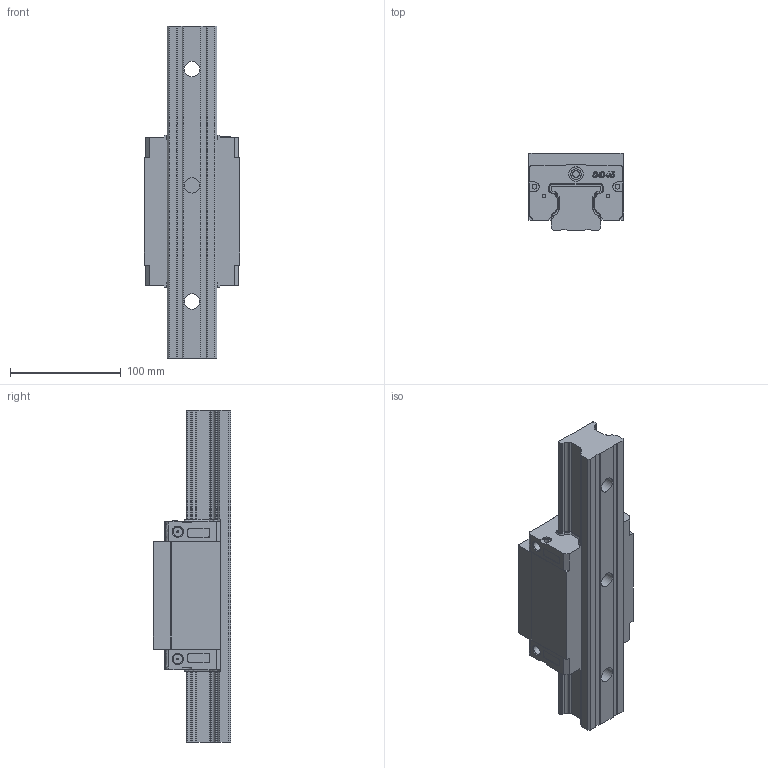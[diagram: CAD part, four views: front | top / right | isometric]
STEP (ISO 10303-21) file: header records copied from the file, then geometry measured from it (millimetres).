
FILE_DESCRIPTION(/* description */ (''),/* implementation_level */ '2;1');
FILE_NAME(/* name */ 'SGH45B.stp',/* time_stamp */ '2021-05-27T16:20:59+08:00',/* author */ (''),/* organization */ (''),/* preprocessor_version */ 'ST-DEVELOPER v15',/* originating_system */ 'SIEMENS PLM Software NX 8.5',/* authorisation */ '');
FILE_SCHEMA (('CONFIG_CONTROL_DESIGN'));
Length unit declared in the file: millimetre
Products named in the file (1): SGH45B
Bounding box: 86 x 70 x 300 mm (x, y, z)
Volume: 918934.3 mm3; surface area: 126869.6 mm2
Topology: 2 solids, 6 shells, 502 faces, 1360 edges, 913 vertices
Faces by surface type: plane 275, cylinder 88, extrusion 72, cone 59, bspline 4, torus 4
Full cylindrical faces by diameter (mm): 1.5 x4, 3.1 x8, 4.3 x4, 6 x2, 8.5 x8, 9.6 x2, 13 x2, 14 x3, 20 x3
Entity records: 16750 total; most frequent: CARTESIAN_POINT 4611, ORIENTED_EDGE 2566, DIRECTION 2228, EDGE_CURVE 1283, VERTEX_POINT 887, VECTOR 800, LINE 728, AXIS2_PLACEMENT_3D 714
